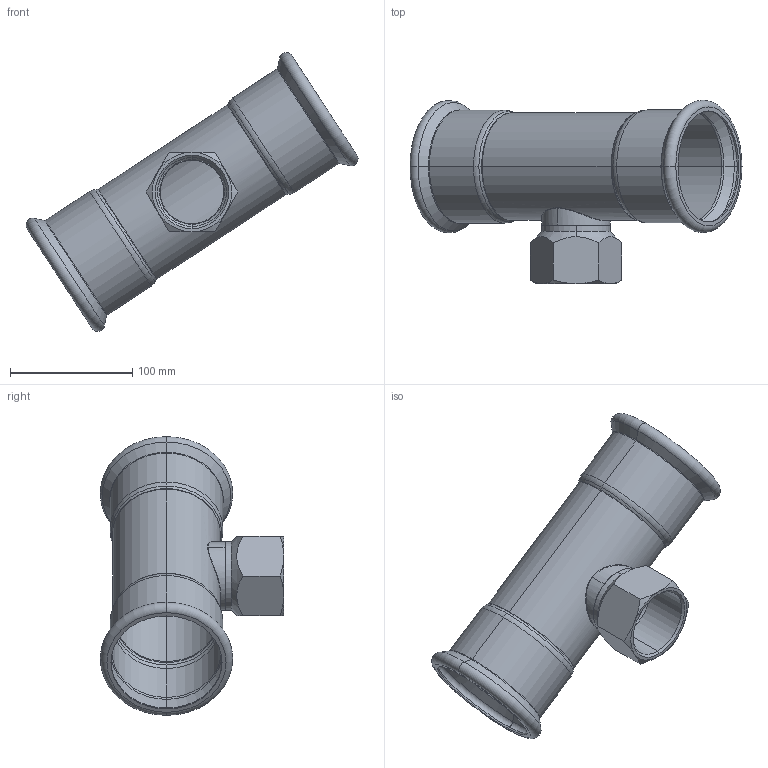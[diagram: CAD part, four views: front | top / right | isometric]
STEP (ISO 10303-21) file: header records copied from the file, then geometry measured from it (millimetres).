
FILE_DESCRIPTION (( 'STEP AP203' ), '1' );
FILE_NAME ('GDA5259.STEP', '2019-01-14T01:35:16', ( '' ), ( '' ), 'SwSTEP 2.0', 'SolidWorks 2015', '' );
FILE_SCHEMA (( 'CONFIG_CONTROL_DESIGN' ));
Length unit declared in the file: millimetre
Products named in the file (3): T(R)-¢ñ-88.9¡Á54''; GDA5259; ITC-I-03-54℅2
Assembly tree (2 placements, depth 2):
  GDA5259
    ITC-I-03-54℅2
    T(R)-¢ñ-88.9¡Á54''
Bounding box: 271.92 x 150.24 x 228.26 mm (x, y, z)
Volume: 165047.1 mm3; surface area: 176917.3 mm2
Topology: 2 solids, 2 shells, 103 faces, 218 edges, 122 vertices
Faces by surface type: torus 32, cone 28, cylinder 26, plane 13, bspline 4
Entity records: 4523 total; most frequent: CARTESIAN_POINT 1990, DIRECTION 526, ORIENTED_EDGE 436, AXIS2_PLACEMENT_3D 236, EDGE_CURVE 218, CIRCLE 132, VERTEX_POINT 122, EDGE_LOOP 112
